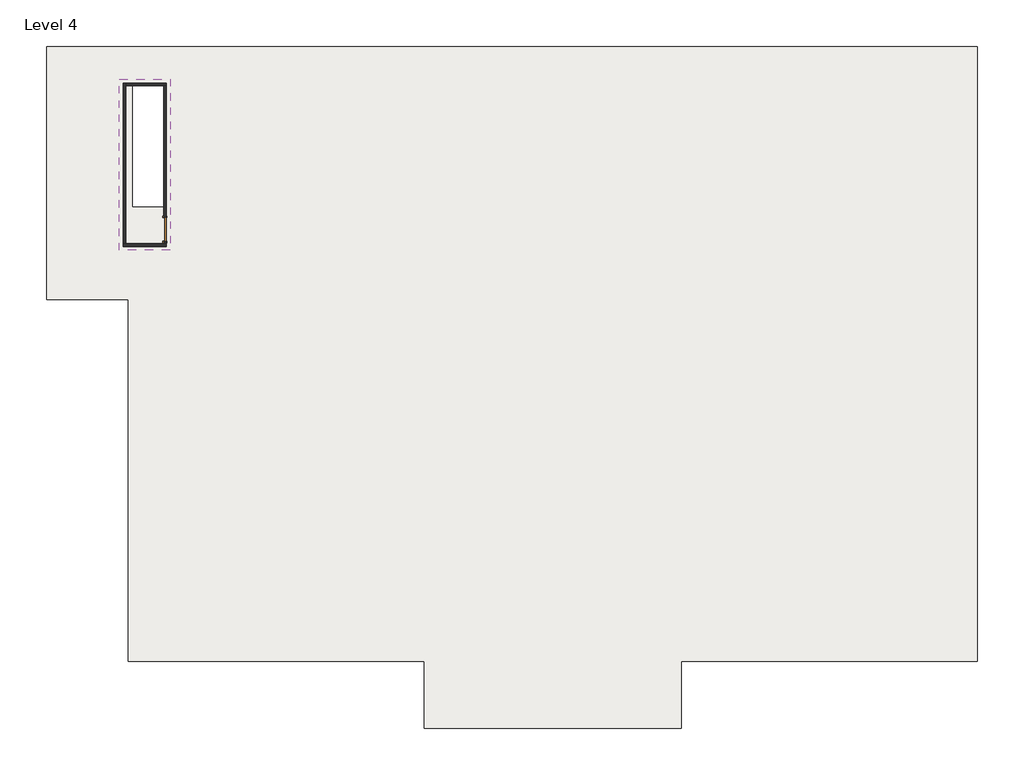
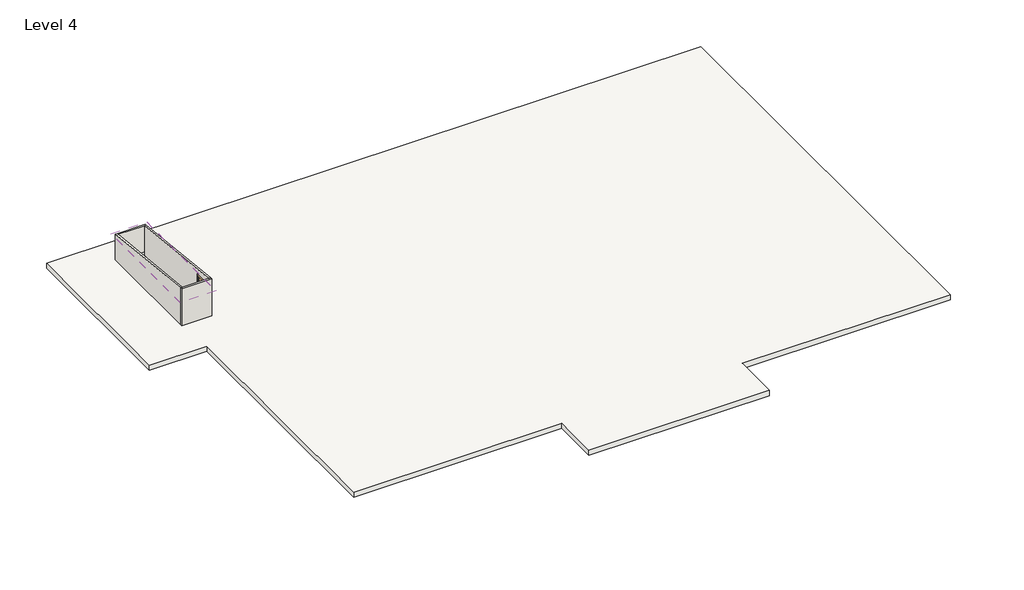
# One storey: 4 walls, 2 roofs, 1 door.
"""IFC4 building model written with IfcOpenShell, lengths in millimetres."""

from ifc_helpers import new_model, si_unit, frame, origin, place, context, project, spatial, polyline, outline, extrude, faceted_brep, transform, mapped, element, save
from components import door_e1b876b4

model = new_model("IFC4")

# Units and contexts
model_context = context("Model", 3, world=origin())
ifc_project = project(units=[si_unit("LENGTHUNIT", "METRE", prefix="MILLI")], contexts=[model_context])

# Site, building, storey
site = spatial("IfcSite", under=ifc_project)
building = spatial("IfcBuilding", under=site)
storey = spatial("IfcBuildingStorey", under=building, Name="Level 4", Elevation=9144.0)

# Door
placement = place(None, origin())
door_shape = door_e1b876b4(model_context)
element("IfcDoor", 1, ObjectType="Single-Flush : 36\" x 80\"", at=placement, inside=storey, context=model_context, shape_type="MappedRepresentation", body=[
    mapped(door_shape, transform((-18278.117382, 9962.3983604, 9144.0), x_axis=(0.0, -1.0, 0.0), y_axis=(1.0, 0.0, 0.0), z_axis=(0.0, 0.0, 1.0))),
])

# Roofs
element("IfcRoof", 2, ObjectType="Generic - 12\"", at=placement, inside=storey, context=model_context, shape_type="SweptSolid", body=[
    extrude(outline(polyline([(13525.857618, -6957.1766396), (1940.282618, -6957.1766396), (1940.282618, -9576.5516396), (-8118.117382, -9576.5516396), (-8118.117382, -6957.1766396), (-19703.692382, -6957.1766396), (-19703.692382, 7219.1983604), (-22907.267382, 7219.1983604), (-22907.267382, 17128.3733604), (13525.857618, 17128.3733604), (13525.857618, -6957.1766396)]), holes=[polyline([(-19541.767382, 15598.0233604), (-19541.767382, 10855.1203648), (-18328.917382, 10855.1203648), (-18328.917382, 15598.0233604), (-19541.767382, 15598.0233604)])]), frame((0.0, 0.0, 9144.0), z_axis=(0.0, 0.0, 1.0), x_axis=(1.0, 0.0, 0.0)), (0.0, 0.0, 1.0), 304.8),
])
element("IfcRoof", 3, ObjectType="Generic - 9\"", at=placement, inside=storey, context=model_context, shape_type="SweptSolid", body=[
    extrude(outline(polyline([(9149.5983604, 11884.931159), (15852.0233604, 11186.7618882), (15852.0233604, 10956.925), (9149.5983604, 11655.0942708), (9149.5983604, 11884.931159)])), frame((-20056.117382, 0.0, 0.0), z_axis=(1.0, 0.0, 0.0), x_axis=(0.0, 1.0, 0.0)), (0.0, 0.0, 1.0), 1981.2),
])

# Walls
element("IfcWall", 4, ObjectType="Generic - 4\" Brick", at=placement, inside=storey, context=model_context, shape_type="Brep", body=[
    faceted_brep([(-18227.317382, 9403.5983604, 9448.8), (-19802.117382, 9403.5983604, 9448.8), (-19903.717382, 9403.5983604, 9448.8), (-19903.717382, 9403.5983604, 11628.6359375), (-19802.117382, 9403.5983604, 11628.6359375), (-18328.917382, 9403.5983604, 11628.6359375), (-18227.317382, 9403.5983604, 11628.6359375), (-18227.317382, 9301.9983604, 9448.8), (-18227.317382, 9301.9983604, 11639.2192708), (-19903.717382, 9301.9983604, 11639.2192708), (-19903.717382, 9301.9983604, 9448.8)], [[[0, 1, 2, 3, 4, 5, 6]], [[7, 8, 9, 10]], [[2, 1, 0, 7, 10]], [[3, 2, 10, 9]], [[0, 6, 8, 7]], [[6, 5, 4, 3, 9, 8]]]),
])
element("IfcWall", 5, ObjectType="Generic - 4\" Brick", at=placement, inside=storey, context=model_context, shape_type="Brep", body=[
    faceted_brep([(-19802.117382, 9403.5983604, 9448.8), (-19802.117382, 15598.0233604, 9448.8), (-19802.117382, 15699.6233604, 9448.8), (-19802.117382, 15699.6233604, 10972.8), (-19802.117382, 15598.0233604, 10983.3833333), (-19802.117382, 9403.5983604, 11628.6359375), (-19903.717382, 9403.5983604, 9448.8), (-19903.717382, 9403.5983604, 11628.6359375), (-19903.717382, 15699.6233604, 10972.8), (-19903.717382, 15699.6233604, 9448.8)], [[[0, 1, 2, 3, 4, 5]], [[6, 7, 8, 9]], [[2, 1, 0, 6, 9]], [[0, 5, 7, 6]], [[3, 2, 9, 8]], [[5, 4, 3, 8, 7]]]),
])
element("IfcWall", 6, ObjectType="Generic - 4\" Brick", at=placement, inside=storey, context=model_context, shape_type="Brep", body=[
    faceted_brep([(-19802.117382, 15598.0233604, 9448.8), (-18227.317382, 15598.0233604, 9448.8), (-18227.317382, 15598.0233604, 10983.3833333), (-18328.917382, 15598.0233604, 10983.3833333), (-19802.117382, 15598.0233604, 10983.3833333), (-19802.117382, 15699.6233604, 9448.8), (-19802.117382, 15699.6233604, 10972.8), (-18227.317382, 15699.6233604, 10972.8), (-18227.317382, 15699.6233604, 9448.8)], [[[0, 1, 2, 3, 4]], [[5, 6, 7, 8]], [[1, 0, 5, 8]], [[0, 4, 6, 5]], [[2, 1, 8, 7]], [[4, 3, 2, 7, 6]]]),
])
element("IfcWall", 7, ObjectType="Generic - 4\" Brick", at=placement, inside=storey, context=model_context, shape_type="Brep", body=[
    faceted_brep([(-18328.917382, 15598.0233604, 10983.3833333), (-18328.917382, 15598.0233604, 9245.6), (-18328.917382, 10419.5983604, 9245.6), (-18328.917382, 10419.5983604, 11176.0), (-18328.917382, 9505.1983604, 11176.0), (-18328.917382, 9505.1983604, 9245.6), (-18328.917382, 9403.5983604, 9245.6), (-18328.917382, 9403.5983604, 11628.6359375), (-18227.317382, 15598.0233604, 9245.6), (-18227.317382, 15598.0233604, 9448.8), (-18227.317382, 15598.0233604, 10983.3833333), (-18227.317382, 9403.5983604, 11628.6359375), (-18227.317382, 9403.5983604, 9448.8), (-18227.317382, 9403.5983604, 9245.6), (-18227.317382, 9505.1983604, 9245.6), (-18227.317382, 9505.1983604, 11176.0), (-18227.317382, 10419.5983604, 11176.0), (-18227.317382, 10419.5983604, 9245.6)], [[[0, 1, 2, 3, 4, 5, 6, 7]], [[8, 9, 10, 11, 12, 13, 14, 15, 16, 17]], [[1, 8, 17, 2]], [[13, 6, 5, 14]], [[1, 0, 10, 9, 8]], [[7, 6, 13, 12, 11]], [[0, 7, 11, 10]], [[4, 15, 14, 5]], [[15, 4, 3, 16]], [[16, 3, 2, 17]]]),
])

save(model, "model.ifc")
